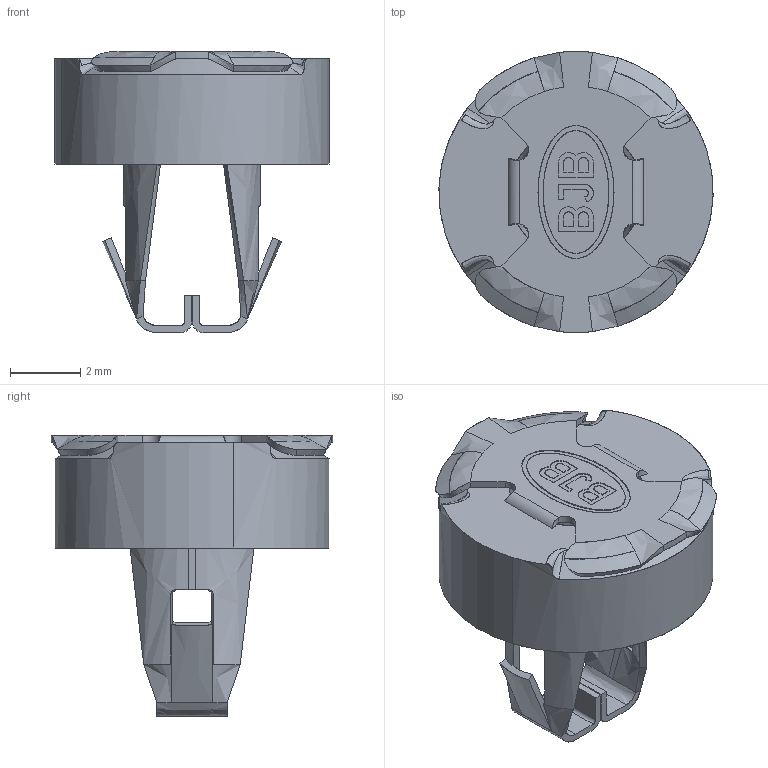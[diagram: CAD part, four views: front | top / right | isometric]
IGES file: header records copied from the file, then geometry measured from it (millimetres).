
Global section: file name: C:\coretechnologie2012\in/01VY70ZY02.igs; native system: CT CoreTechnologie 3D Evolution; preprocessor: 2006; author: assmuth; date: 1130911.074937; units: millimetre
Bounding box: 7.8 x 8 x 7.99 mm (x, y, z)
Surface area: 324.5 mm2 (no closed solid volume)
Topology: 0 solids, 0 shells, 261 faces, 1448 edges, 1448 vertices
Faces by surface type: bspline 261
